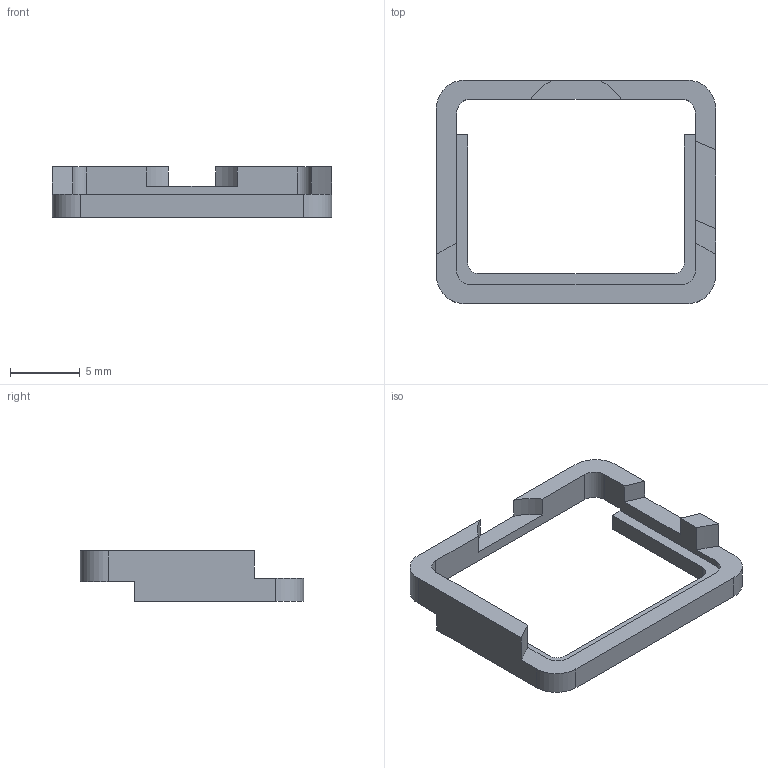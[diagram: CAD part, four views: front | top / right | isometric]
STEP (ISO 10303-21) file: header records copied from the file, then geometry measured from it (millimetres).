
FILE_DESCRIPTION(('Open CASCADE Model'),'2;1');
FILE_NAME('Open CASCADE Shape Model','2026-09-04T21:47:03',('Author'),( 'Open CASCADE'),'Open CASCADE STEP processor 7.7','Open CASCADE 7.7' ,'Unknown');
FILE_SCHEMA(('AUTOMOTIVE_DESIGN { 1 0 10303 214 1 1 1 1 }'));
Length unit declared in the file: millimetre
Products named in the file (1): Open CASCADE STEP translator 7.7 3
Bounding box: 20 x 16 x 3.6 mm (x, y, z)
Volume: 226.7 mm3; surface area: 528.6 mm2
Topology: 1 solids, 1 shells, 38 faces, 114 edges, 76 vertices
Faces by surface type: plane 24, cylinder 14
Entity records: 2704 total; most frequent: CARTESIAN_POINT 598, DIRECTION 342, ORIENTED_EDGE 228, PCURVE 228, DEFINITIONAL_REPRESENTATION 228, LINE 187, VECTOR 187, EDGE_CURVE 114
